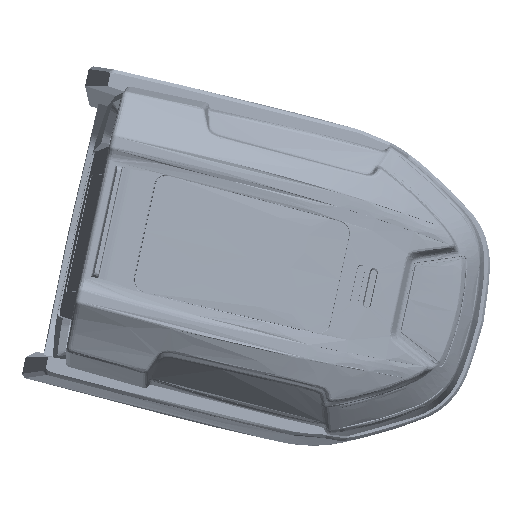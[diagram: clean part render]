
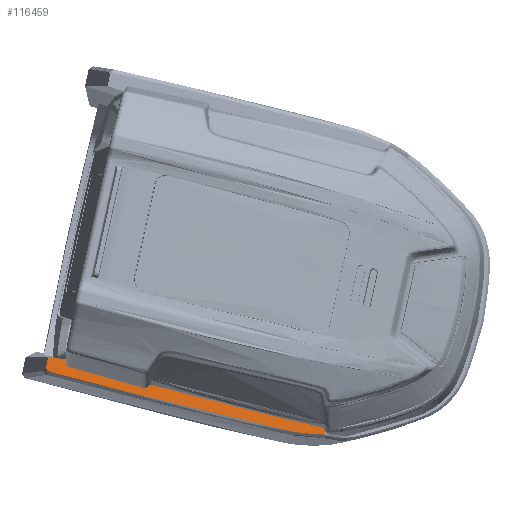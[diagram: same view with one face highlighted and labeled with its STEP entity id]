
A CAD part, left-side view. The second image highlights one B-rep face of the part: STEP entity #116459.
In plain terms, the highlighted planar face has unit normal (-0.953, -0.303, 0.014) as drawn and (0, -0.014, 1) by its records, which use the part's own axes.
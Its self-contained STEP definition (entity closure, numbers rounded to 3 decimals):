
#110679=DIRECTION('',(1.,0.,0.));
#110680=VECTOR('',#110679,2.634);
#110681=CARTESIAN_POINT('',(-147.907,261.709,
-76.701));
#110682=LINE('',#110681,#110680);
#110683=DIRECTION('',(0.083,-0.996,-0.014));
#110684=VECTOR('',#110683,4.293);
#110685=CARTESIAN_POINT('',(-145.273,261.709,
-76.7));
#110686=LINE('',#110685,#110684);
#110687=DIRECTION('',(-1.,0.,0.));
#110688=VECTOR('',#110687,0.415);
#110689=CARTESIAN_POINT('',(-144.918,257.431,
-76.759));
#110690=LINE('',#110689,#110688);
#110691=CARTESIAN_POINT('',(-145.096,194.371,
-77.631));
#110692=CARTESIAN_POINT('',(-145.163,194.671,
-77.627));
#110693=CARTESIAN_POINT('',(-145.288,195.275,
-77.619));
#110694=CARTESIAN_POINT('',(-145.445,196.189,
-77.606));
#110695=CARTESIAN_POINT('',(-145.573,197.107,
-77.594));
#110696=CARTESIAN_POINT('',(-145.677,198.025,
-77.581));
#110697=CARTESIAN_POINT('',(-145.761,198.946,
-77.568));
#110698=CARTESIAN_POINT('',(-145.829,199.879,
-77.555));
#110699=CARTESIAN_POINT('',(-145.887,200.832,
-77.542));
#110700=CARTESIAN_POINT('',(-145.921,201.49,
-77.533));
#110701=CARTESIAN_POINT('',(-145.937,201.824,
-77.528));
#110703=CARTESIAN_POINT('',(-148.694,243.765,
-76.949));
#110704=CARTESIAN_POINT('',(-148.674,245.518,
-76.925));
#110705=CARTESIAN_POINT('',(-148.612,249.079,
-76.875));
#110706=CARTESIAN_POINT('',(-148.53,254.583,
-76.799));
#110707=CARTESIAN_POINT('',(-148.496,258.372,
-76.747));
#110708=CARTESIAN_POINT('',(-148.485,260.295,
-76.72));
#111808=CARTESIAN_POINT('',(-147.445,194.388,
-77.631));
#111809=CARTESIAN_POINT('',(-147.184,194.386,
-77.631));
#111810=CARTESIAN_POINT('',(-146.663,194.382,
-77.631));
#111811=CARTESIAN_POINT('',(-145.88,194.376,
-77.631));
#111812=CARTESIAN_POINT('',(-145.357,194.373,
-77.631));
#111813=CARTESIAN_POINT('',(-145.096,194.371,
-77.631));
#112831=CARTESIAN_POINT('',(-145.937,201.824,
-77.528));
#112832=CARTESIAN_POINT('',(-146.068,204.459,
-77.492));
#112833=CARTESIAN_POINT('',(-146.259,209.875,
-77.417));
#112834=CARTESIAN_POINT('',(-146.35,218.402,
-77.299));
#112835=CARTESIAN_POINT('',(-146.273,227.438,
-77.174));
#112836=CARTESIAN_POINT('',(-146.063,236.96,-77.043));
#112837=CARTESIAN_POINT('',(-145.743,246.936,
-76.905));
#112838=CARTESIAN_POINT('',(-145.475,253.883,
-76.809));
#112839=CARTESIAN_POINT('',(-145.333,257.431,
-76.76));
#112841=CARTESIAN_POINT('',(-145.333,257.431,
-76.76));
#112852=CARTESIAN_POINT('',(-147.445,194.388,
-77.631));
#112871=CARTESIAN_POINT('',(-148.476,201.423,
-77.534));
#112872=CARTESIAN_POINT('',(-148.439,200.709,
-77.544));
#112873=CARTESIAN_POINT('',(-148.265,199.239,
-77.564));
#112874=CARTESIAN_POINT('',(-147.879,196.898,
-77.597));
#112875=CARTESIAN_POINT('',(-147.602,195.24,
-77.62));
#112876=CARTESIAN_POINT('',(-147.445,194.388,
-77.631));
#112878=CARTESIAN_POINT('',(-148.476,201.423,
-77.534));
#112879=CARTESIAN_POINT('',(-148.569,203.187,
-77.51));
#112880=CARTESIAN_POINT('',(-148.679,206.722,
-77.461));
#112881=CARTESIAN_POINT('',(-148.8,212.051,
-77.387));
#112882=CARTESIAN_POINT('',(-148.846,217.376,
-77.314));
#112883=CARTESIAN_POINT('',(-148.851,222.686,
-77.24));
#112884=CARTESIAN_POINT('',(-148.829,227.961,
-77.167));
#112885=CARTESIAN_POINT('',(-148.796,233.221,
-77.095));
#112886=CARTESIAN_POINT('',(-148.75,238.48,
-77.022));
#112887=CARTESIAN_POINT('',(-148.714,242.002,
-76.973));
#112888=CARTESIAN_POINT('',(-148.694,243.765,
-76.949));
#112971=CARTESIAN_POINT('',(-147.907,261.709,
-76.701));
#112972=CARTESIAN_POINT('',(-147.998,261.578,
-76.703));
#112973=CARTESIAN_POINT('',(-148.162,261.326,
-76.706));
#112974=CARTESIAN_POINT('',(-148.347,260.965,
-76.711));
#112975=CARTESIAN_POINT('',(-148.459,260.625,
-76.716));
#112976=CARTESIAN_POINT('',(-148.485,260.404,
-76.719));
#112977=CARTESIAN_POINT('',(-148.485,260.295,
-76.72));
#113417=CARTESIAN_POINT('',(-148.485,260.295,
-76.72));
#113418=VERTEX_POINT('',#113417);
#113435=VERTEX_POINT('',#112878);
#113436=VERTEX_POINT('',#112888);
#113457=VERTEX_POINT('',#112852);
#113481=VERTEX_POINT('',#110691);
#113482=VERTEX_POINT('',#110701);
#113486=VERTEX_POINT('',#112841);
#113506=VERTEX_POINT('',#112971);
#113516=CARTESIAN_POINT('',(-145.273,261.709,
-76.7));
#113517=VERTEX_POINT('',#113516);
#113518=CARTESIAN_POINT('',(-144.918,257.431,
-76.759));
#113519=VERTEX_POINT('',#113518);
#116434=CARTESIAN_POINT('',(0.01,1.11,
-80.286));
#116435=DIRECTION('',(0.,-0.014,1.));
#116436=DIRECTION('',(1.,0.,0.));
#116437=AXIS2_PLACEMENT_3D('',#116434,#116435,#116436);
#116438=PLANE('',#116437);
#116440=ORIENTED_EDGE('',*,*,#116439,.T.);
#116441=ORIENTED_EDGE('',*,*,#116400,.T.);
#116442=ORIENTED_EDGE('',*,*,#114369,.T.);
#116444=ORIENTED_EDGE('',*,*,#116443,.F.);
#116446=ORIENTED_EDGE('',*,*,#116445,.F.);
#116448=ORIENTED_EDGE('',*,*,#116447,.F.);
#116450=ORIENTED_EDGE('',*,*,#116449,.F.);
#116452=ORIENTED_EDGE('',*,*,#116451,.T.);
#116454=ORIENTED_EDGE('',*,*,#116453,.T.);
#116456=ORIENTED_EDGE('',*,*,#116455,.F.);
#116457=EDGE_LOOP('',(#116440,#116441,#116442,#116444,#116446,#116448,#116450,
#116452,#116454,#116456));
#116458=FACE_OUTER_BOUND('',#116457,.F.);
#116459=ADVANCED_FACE('',(#116458),#116438,.T.);
#110702=B_SPLINE_CURVE_WITH_KNOTS('',3,(#110691,#110692,#110693,#110694,#110695,
#110696,#110697,#110698,#110699,#110700,#110701),.UNSPECIFIED.,.F.,.F.,(4,1,1,1,
1,1,1,1,4),(0.,0.125,0.25,0.375,0.5,0.625,0.75,0.875,1.),
.UNSPECIFIED.);
#110709=B_SPLINE_CURVE_WITH_KNOTS('',3,(#110703,#110704,#110705,#110706,#110707,
#110708),.UNSPECIFIED.,.F.,.F.,(4,1,1,4),(0.,0.333,
0.667,1.),.UNSPECIFIED.);
#111814=B_SPLINE_CURVE_WITH_KNOTS('',3,(#111808,#111809,#111810,#111811,#111812,
#111813),.UNSPECIFIED.,.F.,.F.,(4,1,1,4),(0.,0.333,
0.667,1.),.UNSPECIFIED.);
#112840=B_SPLINE_CURVE_WITH_KNOTS('',3,(#112831,#112832,#112833,#112834,#112835,
#112836,#112837,#112838,#112839),.UNSPECIFIED.,.F.,.F.,(4,1,1,1,1,1,4),(0.,
0.167,0.333,0.5,0.667,0.833,
1.),.UNSPECIFIED.);
#112877=B_SPLINE_CURVE_WITH_KNOTS('',3,(#112871,#112872,#112873,#112874,#112875,
#112876),.UNSPECIFIED.,.F.,.F.,(4,1,1,4),(0.,0.333,
0.667,1.),.UNSPECIFIED.);
#112889=B_SPLINE_CURVE_WITH_KNOTS('',3,(#112878,#112879,#112880,#112881,#112882,
#112883,#112884,#112885,#112886,#112887,#112888),.UNSPECIFIED.,.F.,.F.,(4,1,1,1,
1,1,1,1,4),(0.,0.125,0.25,0.375,0.5,0.625,0.75,0.875,1.),
.UNSPECIFIED.);
#112978=B_SPLINE_CURVE_WITH_KNOTS('',3,(#112971,#112972,#112973,#112974,#112975,
#112976,#112977),.UNSPECIFIED.,.F.,.F.,(4,1,1,1,4),(0.,0.25,0.5,0.75,
1.),.UNSPECIFIED.);
#114369=EDGE_CURVE('',#113519,#113486,#110690,.T.);
#116400=EDGE_CURVE('',#113517,#113519,#110686,.T.);
#116439=EDGE_CURVE('',#113506,#113517,#110682,.T.);
#116443=EDGE_CURVE('',#113482,#113486,#112840,.T.);
#116445=EDGE_CURVE('',#113481,#113482,#110702,.T.);
#116447=EDGE_CURVE('',#113457,#113481,#111814,.T.);
#116449=EDGE_CURVE('',#113435,#113457,#112877,.T.);
#116451=EDGE_CURVE('',#113435,#113436,#112889,.T.);
#116453=EDGE_CURVE('',#113436,#113418,#110709,.T.);
#116455=EDGE_CURVE('',#113506,#113418,#112978,.T.);
